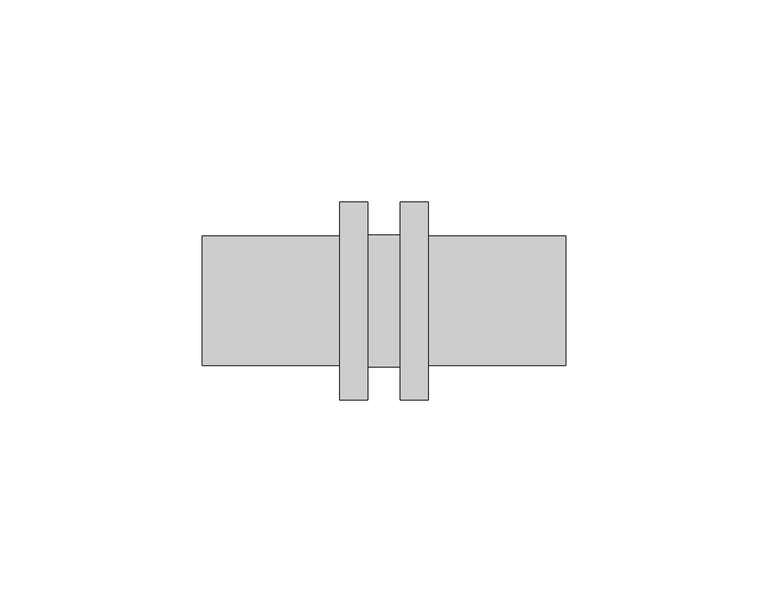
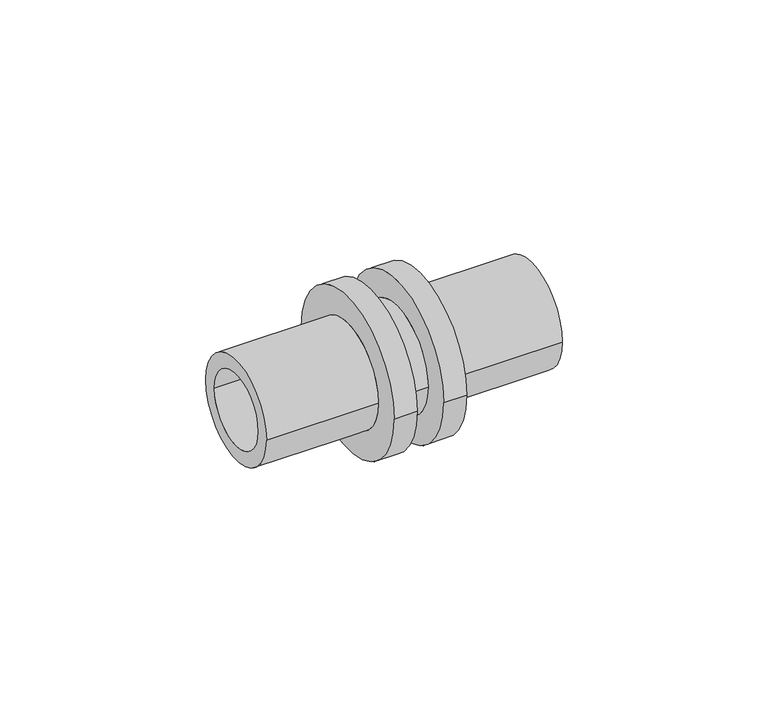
"""IFC4 building model written with IfcOpenShell, lengths in millimetres: pipe fitting geometry, RAUTITAN_Union_LX : RTI LX U DE."""

from ifc_helpers import new_model, si_unit, frame, origin, place, context, project, spatial, polyline, circle_curve, source, transform, mapped, element, save
from ifc_brep_helpers import plane_surface, cylinder_surface, revolved_surface, advanced_brep


def pipe_fitting_48054694(model_context):
    return source(origin(), model_context, "Body", "AdvancedBrep", [
        advanced_brep(
        [(-45.0, 11.5, 0.0), (-45.0, -11.5, 0.0), (45.0, -11.5, 0.0), (45.0, 11.5, 0.0), (-11.0, 16.0, 0.0), (-11.0, -16.0, 0.0), (-45.0, -16.0, 0.0), (-45.0, 16.0, 0.0), (-4.0, 24.5, 0.0), (-4.0, -24.5, 0.0), (-11.0, -24.5, 0.0), (-11.0, 24.5, 0.0), (4.0, 16.3, 0.0), (4.0, -16.3, 0.0), (-4.0, -16.3, 0.0), (-4.0, 16.3, 0.0), (11.0, 24.5, 0.0), (11.0, -24.5, 0.0), (4.0, -24.5, 0.0), (4.0, 24.5, 0.0), (45.0, 16.0, 0.0), (45.0, -16.0, 0.0), (11.0, -16.0, 0.0), (11.0, 16.0, 0.0)],
        [
            (0, 1, circle_curve(frame((-45.0, 0.0, 0.0), z_axis=(-1.0, 0.0, 0.0), x_axis=(0.0, -1.0, 0.0)), 11.5)),
            (1, 2),
            (2, 3, circle_curve(frame((45.0, 0.0, 0.0), z_axis=(1.0, 0.0, 0.0), x_axis=(0.0, -1.0, 0.0)), 11.5)),
            (3, 0),
            (4, 5, circle_curve(frame((-11.0, 0.0, 0.0), z_axis=(-1.0, 0.0, 0.0), x_axis=(0.0, -1.0, 0.0)), 16.0)),
            (5, 6),
            (6, 7, circle_curve(frame((-45.0, 0.0, 0.0), z_axis=(1.0, 0.0, 0.0), x_axis=(0.0, -1.0, 0.0)), 16.0)),
            (7, 4),
            (8, 9, circle_curve(frame((-4.0, 0.0, 0.0), z_axis=(-1.0, 0.0, 0.0), x_axis=(0.0, -1.0, 0.0)), 24.5)),
            (9, 10),
            (10, 11, circle_curve(frame((-11.0, 0.0, 0.0), z_axis=(1.0, 0.0, 0.0), x_axis=(0.0, -1.0, 0.0)), 24.5)),
            (11, 8),
            (12, 13, circle_curve(frame((4.0, 0.0, 0.0), z_axis=(-1.0, 0.0, 0.0), x_axis=(0.0, -1.0, 0.0)), 16.3)),
            (13, 14),
            (14, 15, circle_curve(frame((-4.0, 0.0, 0.0), z_axis=(1.0, 0.0, 0.0), x_axis=(0.0, -1.0, 0.0)), 16.3)),
            (15, 12),
            (16, 17, circle_curve(frame((11.0, 0.0, 0.0), z_axis=(-1.0, 0.0, 0.0), x_axis=(0.0, -1.0, 0.0)), 24.5)),
            (17, 18),
            (18, 19, circle_curve(frame((4.0, 0.0, 0.0), z_axis=(1.0, 0.0, 0.0), x_axis=(0.0, -1.0, 0.0)), 24.5)),
            (19, 16),
            (20, 21, circle_curve(frame((45.0, 0.0, 0.0), z_axis=(-1.0, 0.0, 0.0), x_axis=(0.0, -1.0, 0.0)), 16.0)),
            (21, 22),
            (22, 23, circle_curve(frame((11.0, 0.0, 0.0), z_axis=(1.0, 0.0, 0.0), x_axis=(0.0, -1.0, 0.0)), 16.0)),
            (23, 20),
            (1, 0, circle_curve(frame((-45.0, 0.0, 0.0), z_axis=(-1.0, 0.0, 0.0), x_axis=(0.0, 1.0, 0.0)), 11.5)),
            (3, 2, circle_curve(frame((45.0, 0.0, 0.0), z_axis=(1.0, 0.0, 0.0), x_axis=(0.0, 1.0, 0.0)), 11.5)),
            (6, 7, circle_curve(frame((-45.0, 0.0, 0.0), z_axis=(-1.0, 0.0, 0.0), x_axis=(0.0, 1.0, 0.0)), 16.0)),
            (5, 4, circle_curve(frame((-11.0, 0.0, 0.0), z_axis=(-1.0, 0.0, 0.0), x_axis=(0.0, 1.0, 0.0)), 16.0)),
            (10, 11, circle_curve(frame((-11.0, 0.0, 0.0), z_axis=(-1.0, 0.0, 0.0), x_axis=(0.0, 1.0, 0.0)), 24.5)),
            (9, 8, circle_curve(frame((-4.0, 0.0, 0.0), z_axis=(-1.0, 0.0, 0.0), x_axis=(0.0, 1.0, 0.0)), 24.5)),
            (14, 15, circle_curve(frame((-4.0, 0.0, 0.0), z_axis=(-1.0, 0.0, 0.0), x_axis=(0.0, 1.0, 0.0)), 16.3)),
            (13, 12, circle_curve(frame((4.0, 0.0, 0.0), z_axis=(-1.0, 0.0, 0.0), x_axis=(0.0, 1.0, 0.0)), 16.3)),
            (18, 19, circle_curve(frame((4.0, 0.0, 0.0), z_axis=(-1.0, 0.0, 0.0), x_axis=(0.0, 1.0, 0.0)), 24.5)),
            (17, 16, circle_curve(frame((11.0, 0.0, 0.0), z_axis=(-1.0, 0.0, 0.0), x_axis=(0.0, 1.0, 0.0)), 24.5)),
            (22, 23, circle_curve(frame((11.0, 0.0, 0.0), z_axis=(-1.0, 0.0, 0.0), x_axis=(0.0, 1.0, 0.0)), 16.0)),
            (21, 20, circle_curve(frame((45.0, 0.0, 0.0), z_axis=(-1.0, 0.0, 0.0), x_axis=(0.0, 1.0, 0.0)), 16.0)),
        ],
        [
            revolved_surface(polyline([(45.0, -11.5, 0.0), (-45.0, -11.5, 0.0)]), (0.0, 0.0, 0.0), (1.0, 0.0, 0.0)),
            cylinder_surface(frame((0.0, 0.0, 0.0), z_axis=(1.0, 0.0, 0.0), x_axis=(0.0, -1.0, 0.0)), 16.0),
            cylinder_surface(frame((0.0, 0.0, 0.0), z_axis=(1.0, 0.0, 0.0), x_axis=(0.0, -1.0, 0.0)), 24.5),
            cylinder_surface(frame((0.0, 0.0, 0.0), z_axis=(1.0, 0.0, 0.0), x_axis=(0.0, -1.0, 0.0)), 16.3),
            revolved_surface(polyline([(45.0, 11.5, 0.0), (-45.0, 11.5, 0.0)]), (0.0, 0.0, 0.0), (1.0, 0.0, 0.0)),
            plane_surface(frame((-45.0, 0.0, 0.0), z_axis=(-1.0, 0.0, 0.0), x_axis=(0.0, 1.0, 0.0))),
            cylinder_surface(frame((0.0, 0.0, 0.0), z_axis=(1.0, 0.0, 0.0), x_axis=(0.0, 1.0, 0.0)), 16.0),
            plane_surface(frame((-11.0, 0.0, 0.0), z_axis=(-1.0, 0.0, 0.0), x_axis=(0.0, 1.0, 0.0))),
            cylinder_surface(frame((0.0, 0.0, 0.0), z_axis=(1.0, 0.0, 0.0), x_axis=(0.0, 1.0, 0.0)), 24.5),
            plane_surface(frame((-4.0, 0.0, 0.0), z_axis=(1.0, 0.0, 0.0), x_axis=(0.0, 1.0, 0.0))),
            cylinder_surface(frame((0.0, 0.0, 0.0), z_axis=(1.0, 0.0, 0.0), x_axis=(0.0, 1.0, 0.0)), 16.3),
            plane_surface(frame((4.0, 0.0, 0.0), z_axis=(-1.0, 0.0, 0.0), x_axis=(0.0, 1.0, 0.0))),
            plane_surface(frame((11.0, 0.0, 0.0), z_axis=(1.0, 0.0, 0.0), x_axis=(0.0, 1.0, 0.0))),
            plane_surface(frame((45.0, 0.0, 0.0), z_axis=(1.0, 0.0, 0.0), x_axis=(0.0, 1.0, 0.0))),
        ],
        [
            (0, [[1, 2, 3, 4]]),
            (1, [[5, 6, 7, 8]]),
            (2, [[9, 10, 11, 12]]),
            (3, [[13, 14, 15, 16]]),
            (2, [[17, 18, 19, 20]]),
            (1, [[21, 22, 23, 24]]),
            (4, [[25, -4, 26, -2]]),
            (5, [[27, -7], [-25, -1]]),
            (6, [[28, -8, -27, -6]]),
            (7, [[29, -11], [-28, -5]]),
            (8, [[30, -12, -29, -10]]),
            (9, [[-30, -9], [31, -15]]),
            (10, [[32, -16, -31, -14]]),
            (11, [[33, -19], [-32, -13]]),
            (8, [[34, -20, -33, -18]]),
            (12, [[-34, -17], [35, -23]]),
            (6, [[36, -24, -35, -22]]),
            (13, [[-36, -21], [-26, -3]]),
        ],
    ),
    ])


if __name__ == "__main__":
    model = new_model("IFC4")
    model_context = context("Model", 3, world=origin())
    ifc_project = project(units=[si_unit("LENGTHUNIT", "METRE", prefix="MILLI")], contexts=[model_context])
    site = spatial("IfcSite", under=ifc_project)
    building = spatial("IfcBuilding", under=site)
    placement = place(None, origin())
    pipe_fitting_shape = pipe_fitting_48054694(model_context)
    element("IfcPipeFitting", 1, ObjectType="RAUTITAN_Union_LX : RTI LX U DE", at=placement, inside=building, context=model_context, shape_type="MappedRepresentation", body=[
        mapped(pipe_fitting_shape, transform((0.0, 0.0, 0.0), x_axis=(1.0, 0.0, 0.0), y_axis=(0.0, 1.0, 0.0), z_axis=(0.0, 0.0, 1.0))),
    ])
    save(model, "model.ifc")
